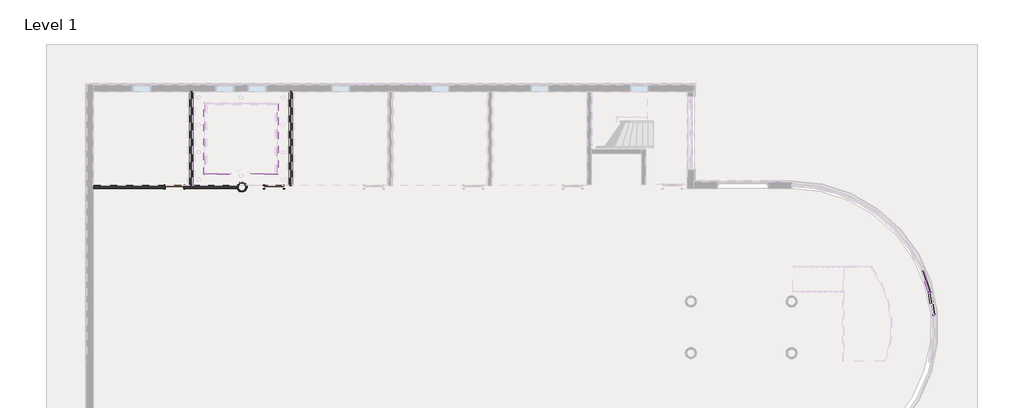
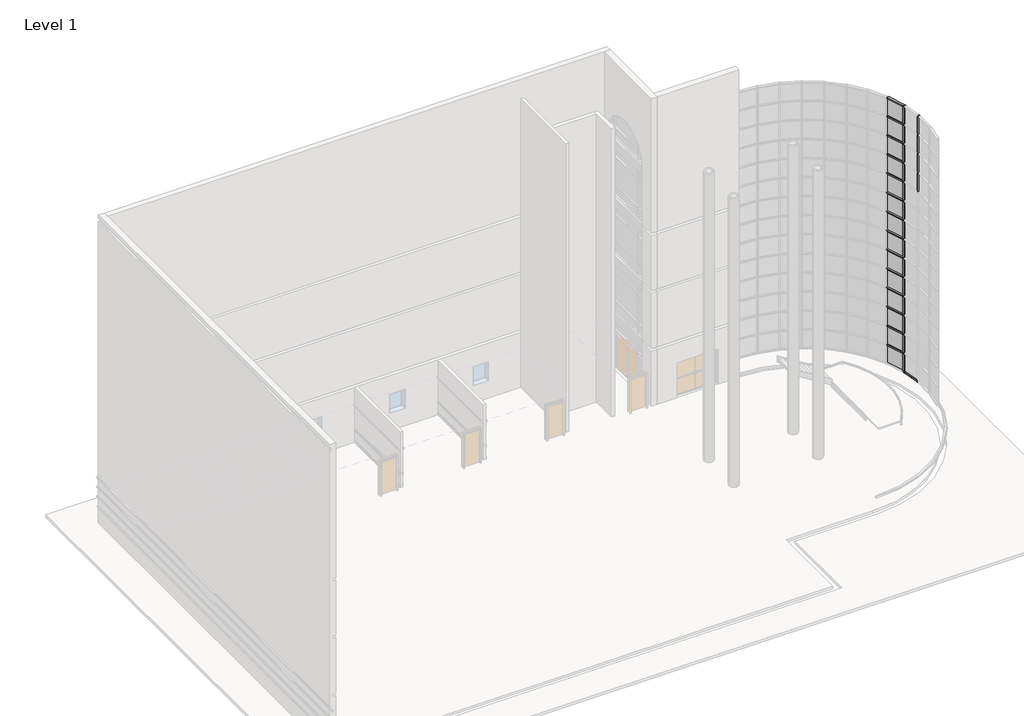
# One storey, part 9 of 20: 33 members, 14 plates, 9 walls, 2 doors.
"""IFC4 building model written with IfcOpenShell, lengths in millimetres."""

from ifc_helpers import new_model, si_unit, frame, origin, place, context, project, spatial, polyline, circle_curve, faceted_brep, transform, mapped, element, save
from ifc_brep_helpers import plane_surface, cylinder_surface, revolved_surface, advanced_brep
from components import door_f9494b7c, member_68fe8548, member_f830fa99, member_935f61b8, system_panel_glazed_da602fa6, system_panel_glazed_77fd207e

model = new_model("IFC4")

# Units and contexts
model_context = context("Model", 3, world=origin())
ifc_project = project(units=[si_unit("LENGTHUNIT", "METRE", prefix="MILLI")], contexts=[model_context])

# Site, building, storey
site = spatial("IfcSite", under=ifc_project)
building = spatial("IfcBuilding", under=site)
storey = spatial("IfcBuildingStorey", under=building, Name="Level 1", Elevation=0.0)

# Doors
placement = place(None, origin())
door_shape = door_f9494b7c(model_context)
element("IfcDoor", 1, ObjectType="Single-Flush : 36\" x 84\"", at=placement, inside=storey, context=model_context, shape_type="MappedRepresentation", body=[
    mapped(door_shape, transform((-13002.9701946, 4534.7523319, 0.0), x_axis=(1.0, 0.0, 0.0), y_axis=(0.0, 1.0, 0.0), z_axis=(0.0, 0.0, 1.0))),
])
element("IfcDoor", 2, ObjectType="Single-Flush : 36\" x 84\"", at=placement, inside=storey, context=model_context, shape_type="MappedRepresentation", body=[
    mapped(door_shape, transform((-8010.8118612, 4534.7523319, 0.0), x_axis=(1.0, 0.0, 0.0), y_axis=(0.0, 1.0, 0.0), z_axis=(0.0, 0.0, 1.0))),
])

# Members
member_shape = member_68fe8548(model_context)
element("IfcMember", 3, ObjectType="Rectangular Mullion : 2.5\" x 5\" rectangular", at=placement, inside=storey, context=model_context, shape_type="MappedRepresentation", body=[
    mapped(member_shape, transform((24848.1611453, -723.2626476, 17983.2), x_axis=(0.0, 0.0, 1.0), y_axis=(-0.9458172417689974, -0.32469946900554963, 0.0), z_axis=(0.32469946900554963, -0.9458172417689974, 0.0))),
])
element("IfcMember", 4, ObjectType="Rectangular Mullion : 2.5\" x 5\" rectangular", at=placement, inside=storey, context=model_context, shape_type="MappedRepresentation", body=[
    mapped(member_shape, transform((24863.6962317, -784.6093164, 1092.2), x_axis=(0.0, 0.0, -1.0), y_axis=(-0.9863613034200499, -0.1645945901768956, 0.0), z_axis=(-0.1645945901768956, 0.9863613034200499, 0.0))),
])
member_2_shape = member_f830fa99(model_context)
element("IfcMember", 5, ObjectType="Rectangular Mullion : 2.5\" x 5\" rectangular", at=placement, inside=storey, context=model_context, shape_type="MappedRepresentation", body=[
    mapped(member_2_shape, transform((24848.1611453, -723.2626476, 2298.7), x_axis=(0.0, 0.0, 1.0), y_axis=(-0.945817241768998, -0.32469946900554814, 0.0), z_axis=(0.32469946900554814, -0.945817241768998, 0.0))),
])
element("IfcMember", 6, ObjectType="Rectangular Mullion : 2.5\" x 5\" rectangular", at=placement, inside=storey, context=model_context, shape_type="MappedRepresentation", body=[
    mapped(member_2_shape, transform((24848.1611453, -723.2626476, 3505.2), x_axis=(0.0, 0.0, 1.0), y_axis=(-0.9458172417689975, -0.3246994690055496, 0.0), z_axis=(0.3246994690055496, -0.9458172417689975, 0.0))),
])
element("IfcMember", 7, ObjectType="Rectangular Mullion : 2.5\" x 5\" rectangular", at=placement, inside=storey, context=model_context, shape_type="MappedRepresentation", body=[
    mapped(member_2_shape, transform((24848.1611453, -723.2626476, 4711.7), x_axis=(0.0, 0.0, 1.0), y_axis=(-0.9458172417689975, -0.3246994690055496, 0.0), z_axis=(0.3246994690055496, -0.9458172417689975, 0.0))),
])
element("IfcMember", 8, ObjectType="Rectangular Mullion : 2.5\" x 5\" rectangular", at=placement, inside=storey, context=model_context, shape_type="MappedRepresentation", body=[
    mapped(member_2_shape, transform((24848.1611453, -723.2626476, 5918.2), x_axis=(0.0, 0.0, 1.0), y_axis=(-0.9458172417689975, -0.3246994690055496, 0.0), z_axis=(0.3246994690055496, -0.9458172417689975, 0.0))),
])
element("IfcMember", 9, ObjectType="Rectangular Mullion : 2.5\" x 5\" rectangular", at=placement, inside=storey, context=model_context, shape_type="MappedRepresentation", body=[
    mapped(member_2_shape, transform((24848.1611453, -723.2626476, 7124.7), x_axis=(0.0, 0.0, 1.0), y_axis=(-0.9458172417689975, -0.32469946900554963, 0.0), z_axis=(0.3246994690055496, -0.9458172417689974, 0.0))),
])
element("IfcMember", 10, ObjectType="Rectangular Mullion : 2.5\" x 5\" rectangular", at=placement, inside=storey, context=model_context, shape_type="MappedRepresentation", body=[
    mapped(member_2_shape, transform((24848.1611453, -723.2626476, 8331.2), x_axis=(0.0, 0.0, 1.0), y_axis=(-0.9458172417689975, -0.32469946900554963, 0.0), z_axis=(0.3246994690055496, -0.9458172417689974, 0.0))),
])
element("IfcMember", 11, ObjectType="Rectangular Mullion : 2.5\" x 5\" rectangular", at=placement, inside=storey, context=model_context, shape_type="MappedRepresentation", body=[
    mapped(member_2_shape, transform((24848.1611453, -723.2626476, 9537.7), x_axis=(0.0, 0.0, 1.0), y_axis=(-0.9458172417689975, -0.32469946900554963, 0.0), z_axis=(0.3246994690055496, -0.9458172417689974, 0.0))),
])
element("IfcMember", 12, ObjectType="Rectangular Mullion : 2.5\" x 5\" rectangular", at=placement, inside=storey, context=model_context, shape_type="MappedRepresentation", body=[
    mapped(member_2_shape, transform((24848.1611453, -723.2626476, 10744.2), x_axis=(0.0, 0.0, 1.0), y_axis=(-0.9458172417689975, -0.32469946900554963, 0.0), z_axis=(0.3246994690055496, -0.9458172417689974, 0.0))),
])
element("IfcMember", 13, ObjectType="Rectangular Mullion : 2.5\" x 5\" rectangular", at=placement, inside=storey, context=model_context, shape_type="MappedRepresentation", body=[
    mapped(member_2_shape, transform((24848.1611453, -723.2626476, 11950.7), x_axis=(0.0, 0.0, 1.0), y_axis=(-0.9458172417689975, -0.32469946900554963, 0.0), z_axis=(0.3246994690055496, -0.9458172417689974, 0.0))),
])
element("IfcMember", 14, ObjectType="Rectangular Mullion : 2.5\" x 5\" rectangular", at=placement, inside=storey, context=model_context, shape_type="MappedRepresentation", body=[
    mapped(member_2_shape, transform((24848.1611453, -723.2626476, 13157.2), x_axis=(0.0, 0.0, 1.0), y_axis=(-0.9458172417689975, -0.32469946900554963, 0.0), z_axis=(0.3246994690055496, -0.9458172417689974, 0.0))),
])
element("IfcMember", 15, ObjectType="Rectangular Mullion : 2.5\" x 5\" rectangular", at=placement, inside=storey, context=model_context, shape_type="MappedRepresentation", body=[
    mapped(member_2_shape, transform((24848.1611453, -723.2626476, 14363.7), x_axis=(0.0, 0.0, 1.0), y_axis=(-0.9458172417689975, -0.32469946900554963, 0.0), z_axis=(0.3246994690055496, -0.9458172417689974, 0.0))),
])
element("IfcMember", 16, ObjectType="Rectangular Mullion : 2.5\" x 5\" rectangular", at=placement, inside=storey, context=model_context, shape_type="MappedRepresentation", body=[
    mapped(member_2_shape, transform((24848.1611453, -723.2626476, 15570.2), x_axis=(0.0, 0.0, 1.0), y_axis=(-0.9458172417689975, -0.32469946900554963, 0.0), z_axis=(0.3246994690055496, -0.9458172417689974, 0.0))),
])
element("IfcMember", 17, ObjectType="Rectangular Mullion : 2.5\" x 5\" rectangular", at=placement, inside=storey, context=model_context, shape_type="MappedRepresentation", body=[
    mapped(member_2_shape, transform((24848.1611453, -723.2626476, 16776.7), x_axis=(0.0, 0.0, 1.0), y_axis=(-0.9458172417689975, -0.32469946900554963, 0.0), z_axis=(0.3246994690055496, -0.9458172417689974, 0.0))),
])
member_3_shape = member_935f61b8(model_context)
element("IfcMember", 18, ObjectType="Rectangular Mullion : 2.5\" x 5\" rectangular", at=placement, inside=storey, context=model_context, shape_type="MappedRepresentation", body=[
    mapped(member_3_shape, transform((24858.4703534, -753.292345, 1092.2), x_axis=(0.24548548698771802, -0.9694002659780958, 0.0), y_axis=(-0.9694002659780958, -0.24548548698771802, 0.0), z_axis=(0.0, 0.0, -1.0))),
])
element("IfcMember", 19, ObjectType="Rectangular Mullion : 2.5\" x 5\" rectangular", at=placement, inside=storey, context=model_context, shape_type="MappedRepresentation", body=[
    mapped(member_3_shape, transform((24858.4703534, -753.292345, 2298.7), x_axis=(0.24548548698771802, -0.9694002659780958, 0.0), y_axis=(-0.9694002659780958, -0.24548548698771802, 0.0), z_axis=(0.0, 0.0, -1.0))),
])
element("IfcMember", 20, ObjectType="Rectangular Mullion : 2.5\" x 5\" rectangular", at=placement, inside=storey, context=model_context, shape_type="MappedRepresentation", body=[
    mapped(member_3_shape, transform((24858.4703534, -753.292345, 3505.2), x_axis=(0.24548548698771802, -0.9694002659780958, 0.0), y_axis=(-0.9694002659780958, -0.24548548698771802, 0.0), z_axis=(0.0, 0.0, -1.0))),
])
element("IfcMember", 21, ObjectType="Rectangular Mullion : 2.5\" x 5\" rectangular", at=placement, inside=storey, context=model_context, shape_type="MappedRepresentation", body=[
    mapped(member_3_shape, transform((24858.4703534, -753.292345, 4711.7), x_axis=(0.24548548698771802, -0.9694002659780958, 0.0), y_axis=(-0.9694002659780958, -0.24548548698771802, 0.0), z_axis=(0.0, 0.0, -1.0))),
])
element("IfcMember", 22, ObjectType="Rectangular Mullion : 2.5\" x 5\" rectangular", at=placement, inside=storey, context=model_context, shape_type="MappedRepresentation", body=[
    mapped(member_3_shape, transform((24858.4703534, -753.292345, 5918.2), x_axis=(0.24548548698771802, -0.9694002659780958, 0.0), y_axis=(-0.9694002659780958, -0.24548548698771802, 0.0), z_axis=(0.0, 0.0, -1.0))),
])
element("IfcMember", 23, ObjectType="Rectangular Mullion : 2.5\" x 5\" rectangular", at=placement, inside=storey, context=model_context, shape_type="MappedRepresentation", body=[
    mapped(member_3_shape, transform((24858.4703534, -753.292345, 7124.7), x_axis=(0.2454854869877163, -0.9694002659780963, 0.0), y_axis=(-0.9694002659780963, -0.2454854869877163, 0.0), z_axis=(0.0, 0.0, -1.0))),
])
element("IfcMember", 24, ObjectType="Rectangular Mullion : 2.5\" x 5\" rectangular", at=placement, inside=storey, context=model_context, shape_type="MappedRepresentation", body=[
    mapped(member_3_shape, transform((24858.4703534, -753.292345, 8331.2), x_axis=(0.2454854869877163, -0.9694002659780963, 0.0), y_axis=(-0.9694002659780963, -0.2454854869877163, 0.0), z_axis=(0.0, 0.0, -1.0))),
])
element("IfcMember", 25, ObjectType="Rectangular Mullion : 2.5\" x 5\" rectangular", at=placement, inside=storey, context=model_context, shape_type="MappedRepresentation", body=[
    mapped(member_3_shape, transform((24858.4703534, -753.292345, 9537.7), x_axis=(0.2454854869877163, -0.9694002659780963, 0.0), y_axis=(-0.9694002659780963, -0.2454854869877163, 0.0), z_axis=(0.0, 0.0, -1.0))),
])
element("IfcMember", 26, ObjectType="Rectangular Mullion : 2.5\" x 5\" rectangular", at=placement, inside=storey, context=model_context, shape_type="MappedRepresentation", body=[
    mapped(member_3_shape, transform((24858.4703534, -753.292345, 10744.2), x_axis=(0.2454854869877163, -0.9694002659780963, 0.0), y_axis=(-0.9694002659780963, -0.2454854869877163, 0.0), z_axis=(0.0, 0.0, -1.0))),
])
element("IfcMember", 27, ObjectType="Rectangular Mullion : 2.5\" x 5\" rectangular", at=placement, inside=storey, context=model_context, shape_type="MappedRepresentation", body=[
    mapped(member_3_shape, transform((24858.4703534, -753.292345, 11950.7), x_axis=(0.2454854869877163, -0.9694002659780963, 0.0), y_axis=(-0.9694002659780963, -0.2454854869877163, 0.0), z_axis=(0.0, 0.0, -1.0))),
])
element("IfcMember", 28, ObjectType="Rectangular Mullion : 2.5\" x 5\" rectangular", at=placement, inside=storey, context=model_context, shape_type="MappedRepresentation", body=[
    mapped(member_3_shape, transform((24858.4703534, -753.292345, 13157.2), x_axis=(0.2454854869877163, -0.9694002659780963, 0.0), y_axis=(-0.9694002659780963, -0.2454854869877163, 0.0), z_axis=(0.0, 0.0, -1.0))),
])
element("IfcMember", 29, ObjectType="Rectangular Mullion : 2.5\" x 5\" rectangular", at=placement, inside=storey, context=model_context, shape_type="MappedRepresentation", body=[
    mapped(member_3_shape, transform((25052.5382104, -1916.2772534, 13157.2), x_axis=(0.0825793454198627, -0.9965844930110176, 0.0), y_axis=(-0.9965844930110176, -0.0825793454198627, 0.0), z_axis=(0.0, 0.0, -1.0))),
])
element("IfcMember", 30, ObjectType="Rectangular Mullion : 2.5\" x 5\" rectangular", at=placement, inside=storey, context=model_context, shape_type="MappedRepresentation", body=[
    mapped(member_3_shape, transform((24858.4703534, -753.292345, 14363.7), x_axis=(0.2454854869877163, -0.9694002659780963, 0.0), y_axis=(-0.9694002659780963, -0.2454854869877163, 0.0), z_axis=(0.0, 0.0, -1.0))),
])
element("IfcMember", 31, ObjectType="Rectangular Mullion : 2.5\" x 5\" rectangular", at=placement, inside=storey, context=model_context, shape_type="MappedRepresentation", body=[
    mapped(member_3_shape, transform((25052.5382104, -1916.2772534, 14363.7), x_axis=(0.0825793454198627, -0.9965844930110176, 0.0), y_axis=(-0.9965844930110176, -0.0825793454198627, 0.0), z_axis=(0.0, 0.0, -1.0))),
])
element("IfcMember", 32, ObjectType="Rectangular Mullion : 2.5\" x 5\" rectangular", at=placement, inside=storey, context=model_context, shape_type="MappedRepresentation", body=[
    mapped(member_3_shape, transform((24858.4703534, -753.292345, 15570.2), x_axis=(0.2454854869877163, -0.9694002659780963, 0.0), y_axis=(-0.9694002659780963, -0.2454854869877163, 0.0), z_axis=(0.0, 0.0, -1.0))),
])
element("IfcMember", 33, ObjectType="Rectangular Mullion : 2.5\" x 5\" rectangular", at=placement, inside=storey, context=model_context, shape_type="MappedRepresentation", body=[
    mapped(member_3_shape, transform((25052.5382104, -1916.2772534, 15570.2), x_axis=(0.0825793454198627, -0.9965844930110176, 0.0), y_axis=(-0.9965844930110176, -0.0825793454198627, 0.0), z_axis=(0.0, 0.0, -1.0))),
])
element("IfcMember", 34, ObjectType="Rectangular Mullion : 2.5\" x 5\" rectangular", at=placement, inside=storey, context=model_context, shape_type="MappedRepresentation", body=[
    mapped(member_3_shape, transform((24858.4703534, -753.292345, 16776.7), x_axis=(0.2454854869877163, -0.9694002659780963, 0.0), y_axis=(-0.9694002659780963, -0.2454854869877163, 0.0), z_axis=(0.0, 0.0, -1.0))),
])
element("IfcMember", 35, ObjectType="Rectangular Mullion : 2.5\" x 5\" rectangular", at=placement, inside=storey, context=model_context, shape_type="MappedRepresentation", body=[
    mapped(member_3_shape, transform((25052.5382104, -1916.2772534, 16776.7), x_axis=(0.0825793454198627, -0.9965844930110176, 0.0), y_axis=(-0.9965844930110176, -0.0825793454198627, 0.0), z_axis=(0.0, 0.0, -1.0))),
])

# Plates
system_panel_glazed_shape = system_panel_glazed_da602fa6(model_context)
element("IfcPlate", 36, ObjectType="System Panel : Glazed", at=placement, inside=storey, context=model_context, shape_type="MappedRepresentation", body=[
    mapped(system_panel_glazed_shape, transform((24667.049329, -195.7019497, 1155.7), x_axis=(0.32469946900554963, -0.9458172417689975, 0.0), y_axis=(0.9458172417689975, 0.32469946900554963, 0.0), z_axis=(0.0, 0.0, 1.0))),
])
element("IfcPlate", 37, ObjectType="System Panel : Glazed", at=placement, inside=storey, context=model_context, shape_type="MappedRepresentation", body=[
    mapped(system_panel_glazed_shape, transform((24667.049329, -195.7019497, 16808.45), x_axis=(0.32469946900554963, -0.9458172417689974, 0.0), y_axis=(0.9458172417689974, 0.32469946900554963, 0.0), z_axis=(0.0, 0.0, 1.0))),
])
system_panel_glazed_2_shape = system_panel_glazed_77fd207e(model_context)
element("IfcPlate", 38, ObjectType="System Panel : Glazed", at=placement, inside=storey, context=model_context, shape_type="MappedRepresentation", body=[
    mapped(system_panel_glazed_2_shape, transform((24667.049329, -195.7019497, 2330.45), x_axis=(0.32469946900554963, -0.9458172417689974, 0.0), y_axis=(0.9458172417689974, 0.32469946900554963, 0.0), z_axis=(0.0, 0.0, 1.0))),
])
element("IfcPlate", 39, ObjectType="System Panel : Glazed", at=placement, inside=storey, context=model_context, shape_type="MappedRepresentation", body=[
    mapped(system_panel_glazed_2_shape, transform((24667.049329, -195.7019497, 3536.95), x_axis=(0.32469946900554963, -0.9458172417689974, 0.0), y_axis=(0.9458172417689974, 0.32469946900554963, 0.0), z_axis=(0.0, 0.0, 1.0))),
])
element("IfcPlate", 40, ObjectType="System Panel : Glazed", at=placement, inside=storey, context=model_context, shape_type="MappedRepresentation", body=[
    mapped(system_panel_glazed_2_shape, transform((24667.049329, -195.7019497, 4743.45), x_axis=(0.32469946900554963, -0.9458172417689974, 0.0), y_axis=(0.9458172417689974, 0.32469946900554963, 0.0), z_axis=(0.0, 0.0, 1.0))),
])
element("IfcPlate", 41, ObjectType="System Panel : Glazed", at=placement, inside=storey, context=model_context, shape_type="MappedRepresentation", body=[
    mapped(system_panel_glazed_2_shape, transform((24667.049329, -195.7019497, 5949.95), x_axis=(0.32469946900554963, -0.9458172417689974, 0.0), y_axis=(0.9458172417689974, 0.32469946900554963, 0.0), z_axis=(0.0, 0.0, 1.0))),
])
element("IfcPlate", 42, ObjectType="System Panel : Glazed", at=placement, inside=storey, context=model_context, shape_type="MappedRepresentation", body=[
    mapped(system_panel_glazed_2_shape, transform((24667.049329, -195.7019497, 7156.45), x_axis=(0.32469946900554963, -0.9458172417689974, 0.0), y_axis=(0.9458172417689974, 0.32469946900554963, 0.0), z_axis=(0.0, 0.0, 1.0))),
])
element("IfcPlate", 43, ObjectType="System Panel : Glazed", at=placement, inside=storey, context=model_context, shape_type="MappedRepresentation", body=[
    mapped(system_panel_glazed_2_shape, transform((24667.049329, -195.7019497, 8362.95), x_axis=(0.32469946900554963, -0.9458172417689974, 0.0), y_axis=(0.9458172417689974, 0.32469946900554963, 0.0), z_axis=(0.0, 0.0, 1.0))),
])
element("IfcPlate", 44, ObjectType="System Panel : Glazed", at=placement, inside=storey, context=model_context, shape_type="MappedRepresentation", body=[
    mapped(system_panel_glazed_2_shape, transform((24667.049329, -195.7019497, 9569.45), x_axis=(0.32469946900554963, -0.9458172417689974, 0.0), y_axis=(0.9458172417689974, 0.32469946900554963, 0.0), z_axis=(0.0, 0.0, 1.0))),
])
element("IfcPlate", 45, ObjectType="System Panel : Glazed", at=placement, inside=storey, context=model_context, shape_type="MappedRepresentation", body=[
    mapped(system_panel_glazed_2_shape, transform((24667.049329, -195.7019497, 10775.95), x_axis=(0.32469946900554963, -0.9458172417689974, 0.0), y_axis=(0.9458172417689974, 0.32469946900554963, 0.0), z_axis=(0.0, 0.0, 1.0))),
])
element("IfcPlate", 46, ObjectType="System Panel : Glazed", at=placement, inside=storey, context=model_context, shape_type="MappedRepresentation", body=[
    mapped(system_panel_glazed_2_shape, transform((24667.049329, -195.7019497, 11982.45), x_axis=(0.32469946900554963, -0.9458172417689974, 0.0), y_axis=(0.9458172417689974, 0.32469946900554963, 0.0), z_axis=(0.0, 0.0, 1.0))),
])
element("IfcPlate", 47, ObjectType="System Panel : Glazed", at=placement, inside=storey, context=model_context, shape_type="MappedRepresentation", body=[
    mapped(system_panel_glazed_2_shape, transform((24667.049329, -195.7019497, 13188.95), x_axis=(0.32469946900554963, -0.9458172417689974, 0.0), y_axis=(0.9458172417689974, 0.32469946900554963, 0.0), z_axis=(0.0, 0.0, 1.0))),
])
element("IfcPlate", 48, ObjectType="System Panel : Glazed", at=placement, inside=storey, context=model_context, shape_type="MappedRepresentation", body=[
    mapped(system_panel_glazed_2_shape, transform((24667.049329, -195.7019497, 14395.45), x_axis=(0.32469946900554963, -0.9458172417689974, 0.0), y_axis=(0.9458172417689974, 0.32469946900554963, 0.0), z_axis=(0.0, 0.0, 1.0))),
])
element("IfcPlate", 49, ObjectType="System Panel : Glazed", at=placement, inside=storey, context=model_context, shape_type="MappedRepresentation", body=[
    mapped(system_panel_glazed_2_shape, transform((24667.049329, -195.7019497, 15601.95), x_axis=(0.32469946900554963, -0.9458172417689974, 0.0), y_axis=(0.9458172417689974, 0.32469946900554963, 0.0), z_axis=(0.0, 0.0, 1.0))),
])

# Walls
element("IfcWall", 50, ObjectType="Interior - 6 1/8\" Partition (2-hr)", at=placement, inside=storey, context=model_context, shape_type="Brep", body=[
    faceted_brep([(-12085.3951946, 4612.5398319, 0.0), (-12085.3951946, 9333.7648319, 0.0), (-12085.3951946, 9333.7648319, 25.4), (-12085.3951946, 9333.7648319, 139.7), (-12085.3951946, 9333.7648319, 184.15), (-12085.3951946, 9333.7648319, 762.0), (-12085.3951946, 9333.7648319, 779.4625), (-12085.3951946, 9333.7648319, 884.2375), (-12085.3951946, 9333.7648319, 901.7), (-12085.3951946, 9333.7648319, 2327.275), (-12085.3951946, 9333.7648319, 2351.8919306), (-12085.3951946, 9333.7648319, 3505.2), (-12085.3951946, 4612.5398319, 3505.2), (-12085.3951946, 4612.5398319, 2351.8919306), (-12085.3951946, 4612.5398319, 2327.275), (-12085.3951946, 4612.5398319, 901.7), (-12085.3951946, 4612.5398319, 884.2375), (-12085.3951946, 4612.5398319, 779.4625), (-12085.3951946, 4612.5398319, 762.0), (-12085.3951946, 4612.5398319, 184.15), (-12085.3951946, 4612.5398319, 139.7), (-12085.3951946, 4612.5398319, 25.4), (-12240.9701946, 4612.5398319, 0.0), (-12240.9701946, 4612.5398319, 25.4), (-12240.9701946, 4612.5398319, 139.7), (-12240.9701946, 4612.5398319, 184.15), (-12240.9701946, 4612.5398319, 762.0), (-12240.9701946, 4612.5398319, 779.4625), (-12240.9701946, 4612.5398319, 884.2375), (-12240.9701946, 4612.5398319, 901.7), (-12240.9701946, 4612.5398319, 2327.275), (-12240.9701946, 4612.5398319, 2351.8919306), (-12240.9701946, 4612.5398319, 3505.2), (-12240.9701946, 9333.7648319, 3505.2), (-12240.9701946, 9333.7648319, 2351.8919306), (-12240.9701946, 9333.7648319, 2327.275), (-12240.9701946, 9333.7648319, 901.7), (-12240.9701946, 9333.7648319, 884.2375), (-12240.9701946, 9333.7648319, 779.4625), (-12240.9701946, 9333.7648319, 762.0), (-12240.9701946, 9333.7648319, 184.15), (-12240.9701946, 9333.7648319, 139.7), (-12240.9701946, 9333.7648319, 25.4), (-12240.9701946, 9333.7648319, 0.0)], [[[0, 1, 2, 3, 4, 5, 6, 7, 8, 9, 10, 11, 12, 13, 14, 15, 16, 17, 18, 19, 20, 21]], [[22, 23, 24, 25, 26, 27, 28, 29, 30, 31, 32, 33, 34, 35, 36, 37, 38, 39, 40, 41, 42, 43]], [[1, 0, 22, 43]], [[0, 21, 20, 19, 18, 17, 16, 15, 14, 13, 12, 32, 31, 30, 29, 28, 27, 26, 25, 24, 23, 22]], [[11, 10, 9, 8, 7, 6, 5, 4, 3, 2, 1, 43, 42, 41, 40, 39, 38, 37, 36, 35, 34, 33]], [[12, 11, 33, 32]]]),
])
element("IfcWall", 51, ObjectType="Interior - 6 1/8\" Partition (2-hr)", at=placement, inside=storey, context=model_context, shape_type="Brep", body=[
    faceted_brep([(-7093.2368612, 4612.5398319, 0.0), (-7093.2368612, 9333.7648319, 0.0), (-7093.2368612, 9333.7648319, 25.4), (-7093.2368612, 9333.7648319, 139.7), (-7093.2368612, 9333.7648319, 184.15), (-7093.2368612, 9333.7648319, 762.0), (-7093.2368612, 9333.7648319, 779.4625), (-7093.2368612, 9333.7648319, 884.2375), (-7093.2368612, 9333.7648319, 901.7), (-7093.2368612, 9333.7648319, 2327.275), (-7093.2368612, 9333.7648319, 2351.8919306), (-7093.2368612, 9333.7648319, 3505.2), (-7093.2368612, 4612.5398319, 3505.2), (-7093.2368612, 4612.5398319, 2351.8919306), (-7093.2368612, 4612.5398319, 2327.275), (-7093.2368612, 4612.5398319, 901.7), (-7093.2368612, 4612.5398319, 884.2375), (-7093.2368612, 4612.5398319, 779.4625), (-7093.2368612, 4612.5398319, 762.0), (-7093.2368612, 4612.5398319, 184.15), (-7093.2368612, 4612.5398319, 139.7), (-7093.2368612, 4612.5398319, 25.4), (-7248.8118612, 4612.5398319, 0.0), (-7248.8118612, 4612.5398319, 25.4), (-7248.8118612, 4612.5398319, 139.7), (-7248.8118612, 4612.5398319, 184.15), (-7248.8118612, 4612.5398319, 762.0), (-7248.8118612, 4612.5398319, 779.4625), (-7248.8118612, 4612.5398319, 884.2375), (-7248.8118612, 4612.5398319, 901.7), (-7248.8118612, 4612.5398319, 2327.275), (-7248.8118612, 4612.5398319, 2351.8919306), (-7248.8118612, 4612.5398319, 3505.2), (-7248.8118612, 9333.7648319, 3505.2), (-7248.8118612, 9333.7648319, 2351.8919306), (-7248.8118612, 9333.7648319, 2327.275), (-7248.8118612, 9333.7648319, 901.7), (-7248.8118612, 9333.7648319, 884.2375), (-7248.8118612, 9333.7648319, 779.4625), (-7248.8118612, 9333.7648319, 762.0), (-7248.8118612, 9333.7648319, 184.15), (-7248.8118612, 9333.7648319, 139.7), (-7248.8118612, 9333.7648319, 25.4), (-7248.8118612, 9333.7648319, 0.0)], [[[0, 1, 2, 3, 4, 5, 6, 7, 8, 9, 10, 11, 12, 13, 14, 15, 16, 17, 18, 19, 20, 21]], [[22, 23, 24, 25, 26, 27, 28, 29, 30, 31, 32, 33, 34, 35, 36, 37, 38, 39, 40, 41, 42, 43]], [[1, 0, 22, 43]], [[0, 21, 20, 19, 18, 17, 16, 15, 14, 13, 12, 32, 31, 30, 29, 28, 27, 26, 25, 24, 23, 22]], [[11, 10, 9, 8, 7, 6, 5, 4, 3, 2, 1, 43, 42, 41, 40, 39, 38, 37, 36, 35, 34, 33]], [[12, 11, 33, 32]]]),
])
element("IfcWall", 52, ObjectType="Interior - 6 1/8\" Partition (2-hr)", at=placement, inside=storey, context=model_context, shape_type="AdvancedBrep", body=[
    advanced_brep(
    [(-17066.4410279, 4612.5398319, 3505.2), (-12240.9701946, 4612.5398319, 3505.2), (-12085.3951946, 4612.5398319, 3505.2), (-9874.4362328, 4612.5398319, 3505.2), (-9874.4362328, 4612.5398319, 2351.8919306), (-9874.4362328, 4612.5398319, 2327.275), (-9874.4362328, 4612.5398319, 901.7), (-9874.4362328, 4612.5398319, 884.2375), (-9874.4362328, 4612.5398319, 779.4625), (-9874.4362328, 4612.5398319, 762.0), (-9874.4362328, 4612.5398319, 184.15), (-9874.4362328, 4612.5398319, 139.7), (-9874.4362328, 4612.5398319, 25.4), (-9874.4362328, 4612.5398319, 0.0), (-12085.3951946, 4612.5398319, 0.0), (-12240.9701946, 4612.5398319, 0.0), (-12545.7701946, 4612.5398319, 0.0), (-12545.7701946, 4612.5398319, 25.4), (-12545.7701946, 4612.5398319, 139.7), (-12545.7701946, 4612.5398319, 184.15), (-12545.7701946, 4612.5398319, 762.0), (-12545.7701946, 4612.5398319, 779.4625), (-12545.7701946, 4612.5398319, 884.2375), (-12545.7701946, 4612.5398319, 901.7), (-12545.7701946, 4612.5398319, 2133.6), (-13460.1701946, 4612.5398319, 2133.6), (-13460.1701946, 4612.5398319, 901.7), (-13460.1701946, 4612.5398319, 884.2375), (-13460.1701946, 4612.5398319, 779.4625), (-13460.1701946, 4612.5398319, 762.0), (-13460.1701946, 4612.5398319, 184.15), (-13460.1701946, 4612.5398319, 139.7), (-13460.1701946, 4612.5398319, 25.4), (-13460.1701946, 4612.5398319, 0.0), (-17066.4410279, 4612.5398319, 0.0), (-17066.4410279, 4612.5398319, 25.4), (-17066.4410279, 4612.5398319, 139.7), (-17066.4410279, 4612.5398319, 184.15), (-17066.4410279, 4612.5398319, 762.0), (-17066.4410279, 4612.5398319, 779.4625), (-17066.4410279, 4612.5398319, 884.2375), (-17066.4410279, 4612.5398319, 901.7), (-17066.4410279, 4612.5398319, 2327.275), (-17066.4410279, 4612.5398319, 2351.8919306), (-13408.8410279, 4456.9648319, 3505.2), (-17066.4410279, 4456.9648319, 3505.2), (-17066.4410279, 4456.9648319, 2351.8919306), (-17066.4410279, 4456.9648319, 2327.275), (-17066.4410279, 4456.9648319, 901.7), (-17066.4410279, 4456.9648319, 884.2375), (-17066.4410279, 4456.9648319, 779.4625), (-17066.4410279, 4456.9648319, 762.0), (-17066.4410279, 4456.9648319, 184.15), (-17066.4410279, 4456.9648319, 139.7), (-17066.4410279, 4456.9648319, 25.4), (-17066.4410279, 4456.9648319, 0.0), (-13460.1701946, 4456.9648319, 0.0), (-13460.1701946, 4456.9648319, 25.4), (-13460.1701946, 4456.9648319, 139.7), (-13460.1701946, 4456.9648319, 184.15), (-13460.1701946, 4456.9648319, 762.0), (-13460.1701946, 4456.9648319, 779.4625), (-13460.1701946, 4456.9648319, 884.2375), (-13460.1701946, 4456.9648319, 901.7), (-13460.1701946, 4456.9648319, 2133.6), (-12545.7701946, 4456.9648319, 2133.6), (-12545.7701946, 4456.9648319, 901.7), (-12545.7701946, 4456.9648319, 884.2375), (-12545.7701946, 4456.9648319, 779.4625), (-12545.7701946, 4456.9648319, 762.0), (-12545.7701946, 4456.9648319, 184.15), (-12545.7701946, 4456.9648319, 139.7), (-12545.7701946, 4456.9648319, 25.4), (-12545.7701946, 4456.9648319, 0.0), (-9874.4362328, 4456.9648319, 0.0), (-9874.4362328, 4456.9648319, 25.4), (-9874.4362328, 4456.9648319, 139.7), (-9874.4362328, 4456.9648319, 184.15), (-9874.4362328, 4456.9648319, 762.0), (-9874.4362328, 4456.9648319, 779.4625), (-9874.4362328, 4456.9648319, 884.2375), (-9874.4362328, 4456.9648319, 901.7), (-9874.4362328, 4456.9648319, 2327.275), (-9874.4362328, 4456.9648319, 2351.8919306), (-9874.4362328, 4456.9648319, 3505.2), (-17066.4410279, 4510.9398319, 3505.2), (-13408.8410279, 4510.9398319, 3505.2), (-9885.1004568, 4510.9398319, 3505.2)],
    [
        (0, 1),
        (1, 2),
        (2, 3),
        (3, 4),
        (4, 5),
        (5, 6),
        (6, 7),
        (7, 8),
        (8, 9),
        (9, 10),
        (10, 11),
        (11, 12),
        (12, 13),
        (13, 14),
        (14, 15),
        (15, 16),
        (16, 17),
        (17, 18),
        (18, 19),
        (19, 20),
        (20, 21),
        (21, 22),
        (22, 23),
        (23, 24),
        (24, 25),
        (25, 26),
        (26, 27),
        (27, 28),
        (28, 29),
        (29, 30),
        (30, 31),
        (31, 32),
        (32, 33),
        (33, 34),
        (34, 35),
        (35, 36),
        (36, 37),
        (37, 38),
        (38, 39),
        (39, 40),
        (40, 41),
        (41, 42),
        (42, 43),
        (43, 0),
        (44, 45),
        (45, 46),
        (46, 47),
        (47, 48),
        (48, 49),
        (49, 50),
        (50, 51),
        (51, 52),
        (52, 53),
        (53, 54),
        (54, 55),
        (55, 56),
        (56, 57),
        (57, 58),
        (58, 59),
        (59, 60),
        (60, 61),
        (61, 62),
        (62, 63),
        (63, 64),
        (64, 65),
        (65, 66),
        (66, 67),
        (67, 68),
        (68, 69),
        (69, 70),
        (70, 71),
        (71, 72),
        (72, 73),
        (73, 74),
        (74, 75),
        (75, 76),
        (76, 77),
        (77, 78),
        (78, 79),
        (79, 80),
        (80, 81),
        (81, 82),
        (82, 83),
        (83, 84),
        (84, 44),
        (55, 34),
        (33, 56),
        (73, 16),
        (13, 74, circle_curve(frame((-9622.6535279, 4534.7523319, 0.0), z_axis=(0.0, 0.0, 1.0), x_axis=(1.0, 0.0, 0.0)), 263.525)),
        (45, 85),
        (85, 0),
        (44, 86),
        (86, 85),
        (84, 87, circle_curve(frame((-9622.6535279, 4534.7523319, 3505.2), z_axis=(0.0, 0.0, -1.0), x_axis=(1.0, 0.0, 0.0)), 263.525)),
        (87, 3, circle_curve(frame((-9622.6535279, 4534.7523319, 3505.2), z_axis=(0.0, 0.0, -1.0), x_axis=(1.0, 0.0, 0.0)), 263.525)),
        (25, 64),
        (24, 65),
    ],
    [
        plane_surface(frame((12457.8725074, 4612.5398319, 0.0), z_axis=(0.0, 1.0, 0.0), x_axis=(-1.0, 0.0, 0.0))),
        plane_surface(frame((12457.8725074, 4456.9648319, 0.0), z_axis=(0.0, -1.0, 0.0), x_axis=(1.0, 0.0, 0.0))),
        plane_surface(frame((-9856.0160279, 4612.5398319, 0.0), z_axis=(0.0, 0.0, -1.0), x_axis=(0.0, -1.0, 0.0))),
        plane_surface(frame((-17066.4410279, -14697.8101681, 0.0), z_axis=(-1.0, 0.0, 0.0), x_axis=(0.0, 1.0, 0.0))),
        plane_surface(frame((18023.4049721, 2628.1648319, 3505.2), z_axis=(0.0, 0.0, 1.0), x_axis=(0.0, -1.0, 0.0))),
        plane_surface(frame((-13408.8410279, -9522.5601681, 3505.2), z_axis=(0.0, 0.0, 1.0), x_axis=(1.0, 0.0, 0.0))),
        plane_surface(frame((-13460.1701946, 4612.5398319, 2133.6), z_axis=(1.0, 0.0, 0.0), x_axis=(0.0, -1.0, 0.0))),
        plane_surface(frame((-12545.7701946, 4612.5398319, 2133.6), z_axis=(0.0, 0.0, -1.0), x_axis=(0.0, -1.0, 0.0))),
        plane_surface(frame((-12545.7701946, 4612.5398319, 0.0), z_axis=(-1.0, 0.0, 0.0), x_axis=(0.0, -1.0, 0.0))),
        revolved_surface(polyline([(-9359.1285279, 4534.7523319, 3505.2), (-9359.1285279, 4534.7523319, 0.0)]), (-9622.6535279, 4534.7523319, 0.0), (0.0, 0.0, 1.0)),
    ],
    [
        (0, [[1, 2, 3, 4, 5, 6, 7, 8, 9, 10, 11, 12, 13, 14, 15, 16, 17, 18, 19, 20, 21, 22, 23, 24, 25, 26, 27, 28, 29, 30, 31, 32, 33, 34, 35, 36, 37, 38, 39, 40, 41, 42, 43, 44]]),
        (1, [[45, 46, 47, 48, 49, 50, 51, 52, 53, 54, 55, 56, 57, 58, 59, 60, 61, 62, 63, 64, 65, 66, 67, 68, 69, 70, 71, 72, 73, 74, 75, 76, 77, 78, 79, 80, 81, 82, 83, 84, 85]]),
        (2, [[86, -34, 87, -56]]),
        (2, [[88, -16, -15, -14, 89, -74]]),
        (3, [[-86, -55, -54, -53, -52, -51, -50, -49, -48, -47, -46, 90, 91, -44, -43, -42, -41, -40, -39, -38, -37, -36, -35]]),
        (4, [[-90, -45, 92, 93]]),
        (5, [[-3, -2, -1, -91, -93, -92, -85, 94, 95]]),
        (6, [[-87, -33, -32, -31, -30, -29, -28, -27, -26, 96, -64, -63, -62, -61, -60, -59, -58, -57]]),
        (7, [[-25, 97, -65, -96]]),
        (8, [[-97, -24, -23, -22, -21, -20, -19, -18, -17, -88, -73, -72, -71, -70, -69, -68, -67, -66]]),
        (9, [[-89, -13, -12, -11, -10, -9, -8, -7, -6, -5, -4, -95, -94, -84, -83, -82, -81, -80, -79, -78, -77, -76, -75]]),
    ],
),
])
element("IfcWall", 53, ObjectType="Interior - Column Wrap", at=placement, inside=storey, context=model_context, shape_type="AdvancedBrep", body=[
    advanced_brep(
    [(-9810.3749834, 4456.9648319, 3657.6), (-9419.4535279, 4534.7523319, 3657.6), (-9359.1285279, 4534.7523319, 3657.6), (-9874.4362328, 4456.9648319, 3657.6), (-9419.4535279, 4534.7523319, 0.0), (-9810.3749834, 4456.9648319, 0.0), (-9874.4362328, 4456.9648319, 0.0), (-9874.4362328, 4612.5398319, 0.0), (-9370.870823, 4612.5398319, 0.0), (-9359.1285279, 4534.7523319, 0.0), (-9874.4362328, 4456.9648319, 3505.2)],
    [
        (0, 1, circle_curve(frame((-9622.6535279, 4534.7523319, 3657.6), z_axis=(0.0, 0.0, -1.0), x_axis=(1.0, 0.0, 0.0)), 203.2)),
        (1, 2),
        (2, 3, circle_curve(frame((-9622.6535279, 4534.7523319, 3657.6), z_axis=(0.0, 0.0, 1.0), x_axis=(1.0, 0.0, 0.0)), 263.525)),
        (3, 0),
        (4, 5, circle_curve(frame((-9622.6535279, 4534.7523319, 0.0), z_axis=(0.0, 0.0, 1.0), x_axis=(1.0, 0.0, 0.0)), 203.2)),
        (5, 6),
        (6, 7, circle_curve(frame((-9622.6535279, 4534.7523319, 0.0), z_axis=(0.0, 0.0, -1.0), x_axis=(1.0, 0.0, 0.0)), 263.525)),
        (7, 8, circle_curve(frame((-9622.6535279, 4534.7523319, 0.0), z_axis=(0.0, 0.0, -1.0), x_axis=(1.0, 0.0, 0.0)), 263.525)),
        (8, 9, circle_curve(frame((-9622.6535279, 4534.7523319, 0.0), z_axis=(0.0, 0.0, -1.0), x_axis=(1.0, 0.0, 0.0)), 263.525)),
        (9, 4),
        (0, 5),
        (4, 1),
        (9, 2),
        (6, 10),
        (10, 3),
    ],
    [
        plane_surface(frame((-9419.4535279, 4534.7523319, 3657.6), z_axis=(0.0, 0.0, 1.0), x_axis=(0.0, -1.0, 0.0))),
        plane_surface(frame((-9419.4535279, 4534.7523319, 0.0), z_axis=(0.0, 0.0, -1.0), x_axis=(0.0, 1.0, 0.0))),
        revolved_surface(polyline([(-9419.4535279, 4534.7523319, 0.0), (-9419.4535279, 4534.7523319, 3657.6)]), (-9622.6535279, 4534.7523319, 0.0), (0.0, 0.0, -1.0)),
        plane_surface(frame((-9419.4535279, 4534.7523319, 3657.6), z_axis=(0.0, -1.0, 0.0), x_axis=(0.0, 0.0, -1.0))),
        cylinder_surface(frame((-9622.6535279, 4534.7523319, 0.0), z_axis=(0.0, 0.0, 1.0), x_axis=(1.0, 0.0, 0.0)), 263.525),
        plane_surface(frame((12457.8725074, 4456.9648319, 0.0), z_axis=(0.0, -1.0, 0.0), x_axis=(1.0, 0.0, 0.0))),
    ],
    [
        (0, [[1, 2, 3, 4]]),
        (1, [[5, 6, 7, 8, 9, 10]]),
        (2, [[-1, 11, -5, 12]]),
        (3, [[-2, -12, -10, 13]]),
        (4, [[-3, -13, -9, -8, -7, 14, 15]]),
        (5, [[-4, -15, -14, -6, -11]]),
    ],
),
])
element("IfcWall", 54, ObjectType="Interior - Column Wrap", at=placement, inside=storey, context=model_context, shape_type="AdvancedBrep", body=[
    advanced_brep(
    [(-9419.4535279, 4534.7523319, 3657.6), (-9810.3749834, 4456.9648319, 3657.6), (-9874.4362328, 4456.9648319, 3657.6), (-9359.1285279, 4534.7523319, 3657.6), (-9810.3749834, 4456.9648319, 0.0), (-9419.4535279, 4534.7523319, 0.0), (-9359.1285279, 4534.7523319, 0.0), (-9370.870823, 4456.9648319, 0.0), (-9874.4362328, 4456.9648319, 0.0), (-9874.4362328, 4456.9648319, 2351.8919306), (-9874.4362328, 4456.9648319, 2327.275), (-9874.4362328, 4456.9648319, 901.7), (-9874.4362328, 4456.9648319, 884.2375), (-9874.4362328, 4456.9648319, 779.4625), (-9874.4362328, 4456.9648319, 762.0), (-9874.4362328, 4456.9648319, 184.15), (-9874.4362328, 4456.9648319, 139.7), (-9874.4362328, 4456.9648319, 25.4)],
    [
        (0, 1, circle_curve(frame((-9622.6535279, 4534.7523319, 3657.6), z_axis=(0.0, 0.0, -1.0), x_axis=(1.0, 0.0, 0.0)), 203.2)),
        (1, 2),
        (2, 3, circle_curve(frame((-9622.6535279, 4534.7523319, 3657.6), z_axis=(0.0, 0.0, 1.0), x_axis=(1.0, 0.0, 0.0)), 263.525)),
        (3, 0),
        (4, 5, circle_curve(frame((-9622.6535279, 4534.7523319, 0.0), z_axis=(0.0, 0.0, 1.0), x_axis=(1.0, 0.0, 0.0)), 203.2)),
        (5, 6),
        (6, 7, circle_curve(frame((-9622.6535279, 4534.7523319, 0.0), z_axis=(0.0, 0.0, -1.0), x_axis=(1.0, 0.0, 0.0)), 263.525)),
        (7, 8, circle_curve(frame((-9622.6535279, 4534.7523319, 0.0), z_axis=(0.0, 0.0, -1.0), x_axis=(1.0, 0.0, 0.0)), 263.525)),
        (8, 4),
        (0, 5),
        (4, 1),
        (2, 9),
        (9, 10),
        (10, 11),
        (11, 12),
        (12, 13),
        (13, 14),
        (14, 15),
        (15, 16),
        (16, 17),
        (17, 8),
        (6, 3),
    ],
    [
        plane_surface(frame((-9419.4535279, 4534.7523319, 3657.6), z_axis=(0.0, 0.0, 1.0), x_axis=(0.0, -1.0, 0.0))),
        plane_surface(frame((-9419.4535279, 4534.7523319, 0.0), z_axis=(0.0, 0.0, -1.0), x_axis=(0.0, 1.0, 0.0))),
        revolved_surface(polyline([(-9419.4535279, 4534.7523319, 0.0), (-9419.4535279, 4534.7523319, 3657.6)]), (-9622.6535279, 4534.7523319, 0.0), (0.0, 0.0, -1.0)),
        cylinder_surface(frame((-9622.6535279, 4534.7523319, 0.0), z_axis=(0.0, 0.0, 1.0), x_axis=(1.0, 0.0, 0.0)), 263.525),
        plane_surface(frame((-9359.1285279, 4534.7523319, 3657.6), z_axis=(0.0, 1.0, 0.0), x_axis=(0.0, 0.0, -1.0))),
        plane_surface(frame((12457.8725074, 4456.9648319, 0.0), z_axis=(0.0, 1.0, 0.0), x_axis=(1.0, 0.0, 0.0))),
    ],
    [
        (0, [[1, 2, 3, 4]]),
        (1, [[5, 6, 7, 8, 9]]),
        (2, [[-1, 10, -5, 11]]),
        (3, [[-3, 12, 13, 14, 15, 16, 17, 18, 19, 20, 21, -8, -7, 22]]),
        (4, [[-4, -22, -6, -10]]),
        (5, [[-2, -11, -9, -21, -20, -19, -18, -17, -16, -15, -14, -13, -12]]),
    ],
),
])
element("IfcWall", 55, ObjectType="Interior -Soffit", at=placement, inside=storey, context=model_context, shape_type="Brep", body=[
    faceted_brep([(-11475.7951946, 8784.4898319, 3505.2), (-11475.7951946, 8724.1648319, 3505.2), (-11475.7951946, 5161.8148319, 3505.2), (-11475.7951946, 5161.8148319, 2546.35), (-11475.7951946, 5222.1398319, 2546.35), (-11475.7951946, 8724.1648319, 2546.35), (-11475.7951946, 8784.4898319, 2546.35), (-11536.1201946, 5161.8148319, 3505.2), (-11536.1201946, 8784.4898319, 3505.2), (-11536.1201946, 8784.4898319, 2546.35), (-11536.1201946, 5161.8148319, 2546.35)], [[[0, 1, 2, 3, 4, 5, 6]], [[7, 8, 9, 10]], [[8, 0, 6, 9]], [[2, 7, 10, 3]], [[2, 1, 0, 8, 7]], [[6, 5, 4, 3, 10, 9]]]),
])
element("IfcWall", 56, ObjectType="Interior -Soffit", at=placement, inside=storey, context=model_context, shape_type="Brep", body=[
    faceted_brep([(-7858.4118612, 5161.8148319, 3505.2), (-7858.4118612, 8724.1648319, 3505.2), (-7858.4118612, 8724.1648319, 2546.35), (-7858.4118612, 5222.1398319, 2546.35), (-7858.4118612, 5161.8148319, 2546.35), (-7798.0868612, 8724.1648319, 3505.2), (-7798.0868612, 5161.8148319, 3505.2), (-7798.0868612, 5161.8148319, 2546.35), (-7798.0868612, 8724.1648319, 2546.35)], [[[0, 1, 2, 3, 4]], [[5, 6, 7, 8]], [[1, 5, 8, 2]], [[6, 0, 4, 7]], [[1, 0, 6, 5]], [[4, 3, 2, 8, 7]]]),
])
element("IfcWall", 57, ObjectType="Interior -Soffit", at=placement, inside=storey, context=model_context, shape_type="AdvancedBrep", body=[
    advanced_brep(
    [(-9188.8998365, 5222.1398319, 3657.6), (-9084.2803391, 5222.1398319, 3657.6), (-7858.4118612, 5222.1398319, 3657.6), (-7858.4118612, 5222.1398319, 2809.0919306), (-7858.4118612, 5222.1398319, 2784.475), (-7858.4118612, 5222.1398319, 2578.1), (-7858.4118612, 5222.1398319, 2560.6375), (-7858.4118612, 5222.1398319, 2546.35), (-9084.2803391, 5222.1398319, 2546.35), (-9188.8998365, 5222.1398319, 2546.35), (-7858.4118612, 5161.8148319, 3657.6), (-9105.5109353, 5161.8148319, 3657.6), (-9105.5109353, 5161.8148319, 2546.35), (-7858.4118612, 5161.8148319, 2546.35), (-7858.4118612, 5161.8148319, 3505.2)],
    [
        (0, 1),
        (1, 2),
        (2, 3),
        (3, 4),
        (4, 5),
        (5, 6),
        (6, 7),
        (7, 8),
        (8, 9),
        (9, 0),
        (10, 11),
        (11, 12),
        (12, 13),
        (13, 14),
        (14, 10),
        (0, 11, circle_curve(frame((-9622.6535279, 4534.7523319, 3657.6), z_axis=(0.0, 0.0, -1.0), x_axis=(1.0, 0.0, 0.0)), 812.8)),
        (10, 2),
        (13, 7),
        (9, 12, circle_curve(frame((-9622.6535279, 4534.7523319, 2546.35), z_axis=(0.0, 0.0, -1.0), x_axis=(1.0, 0.0, 0.0)), 812.8)),
    ],
    [
        plane_surface(frame((-7858.4118612, 5222.1398319, 2438.4), z_axis=(0.0, 1.0, 0.0), x_axis=(-1.0, 0.0, 0.0))),
        plane_surface(frame((-7858.4118612, 5161.8148319, 2438.4), z_axis=(0.0, -1.0, 0.0), x_axis=(1.0, 0.0, 0.0))),
        plane_surface(frame((-9094.7888902, 5222.1398319, 3657.6), z_axis=(0.0, 0.0, 1.0), x_axis=(0.0, -1.0, 0.0))),
        plane_surface(frame((-7858.4118612, 8724.1648319, 2438.4), z_axis=(1.0, 0.0, 0.0), x_axis=(0.0, -1.0, 0.0))),
        revolved_surface(polyline([(-8809.8535279, 4534.7523319, 2546.35), (-8809.8535279, 4534.7523319, 3657.6)]), (-9622.6535279, 4534.7523319, 2438.4), (0.0, 0.0, -1.0)),
        plane_surface(frame((-12085.3951946, 4534.7523319, 2546.35), z_axis=(0.0, 0.0, -1.0), x_axis=(0.0, -1.0, 0.0))),
    ],
    [
        (0, [[1, 2, 3, 4, 5, 6, 7, 8, 9, 10]]),
        (1, [[11, 12, 13, 14, 15]]),
        (2, [[-2, -1, 16, -11, 17]]),
        (3, [[-17, -15, -14, 18, -7, -6, -5, -4, -3]]),
        (4, [[-16, -10, 19, -12]]),
        (5, [[-9, -8, -18, -13, -19]]),
    ],
),
])
element("IfcWall", 58, ObjectType="Interior -Soffit", at=placement, inside=storey, context=model_context, shape_type="AdvancedBrep", body=[
    advanced_brep(
    [(-11475.7951946, 5222.1398319, 3657.6), (-10161.0267167, 5222.1398319, 3657.6), (-10161.0267167, 5222.1398319, 2809.0919306), (-10161.0267167, 5222.1398319, 2784.475), (-10161.0267167, 5222.1398319, 2578.1), (-10161.0267167, 5222.1398319, 2560.6375), (-10161.0267167, 5222.1398319, 2546.35), (-11475.7951946, 5222.1398319, 2546.35), (-11475.7951946, 5222.1398319, 2560.6375), (-11475.7951946, 5222.1398319, 2578.1), (-11475.7951946, 5222.1398319, 2784.475), (-11475.7951946, 5222.1398319, 2809.0919306), (-10230.2223608, 5161.8148319, 3657.6), (-11475.7951946, 5161.8148319, 3657.6), (-11475.7951946, 5161.8148319, 3505.2), (-11475.7951946, 5161.8148319, 2546.35), (-10230.2223608, 5161.8148319, 2546.35)],
    [
        (0, 1),
        (1, 2),
        (2, 3),
        (3, 4),
        (4, 5),
        (5, 6),
        (6, 7),
        (7, 8),
        (8, 9),
        (9, 10),
        (10, 11),
        (11, 0),
        (12, 13),
        (13, 14),
        (14, 15),
        (15, 16),
        (16, 12),
        (0, 13),
        (12, 1, circle_curve(frame((-9622.6535279, 4534.7523319, 3657.6), z_axis=(0.0, 0.0, -1.0), x_axis=(1.0, 0.0, 0.0)), 873.125)),
        (16, 6, circle_curve(frame((-9622.6535279, 4534.7523319, 2546.35), z_axis=(0.0, 0.0, -1.0), x_axis=(1.0, 0.0, 0.0)), 873.125)),
        (7, 15),
    ],
    [
        plane_surface(frame((-10161.0267167, 5222.1398319, 2438.4), z_axis=(0.0, 1.0, 0.0), x_axis=(-1.0, 0.0, 0.0))),
        plane_surface(frame((-10161.0267167, 5161.8148319, 2438.4), z_axis=(0.0, -1.0, 0.0), x_axis=(1.0, 0.0, 0.0))),
        plane_surface(frame((-11505.9576946, 5222.1398319, 3657.6), z_axis=(0.0, 0.0, 1.0), x_axis=(0.0, -1.0, 0.0))),
        revolved_surface(polyline([(-8749.5285279, 4534.7523319, 3657.6), (-8749.5285279, 4534.7523319, 2546.35)]), (-9622.6535279, 4534.7523319, 2438.4), (0.0, 0.0, 1.0)),
        plane_surface(frame((-11475.7951946, 5222.1398319, 2438.4), z_axis=(-1.0, 0.0, 0.0), x_axis=(0.0, 1.0, 0.0))),
        plane_surface(frame((-12085.3951946, 4534.7523319, 2546.35), z_axis=(0.0, 0.0, -1.0), x_axis=(0.0, -1.0, 0.0))),
    ],
    [
        (0, [[1, 2, 3, 4, 5, 6, 7, 8, 9, 10, 11, 12]]),
        (1, [[13, 14, 15, 16, 17]]),
        (2, [[-1, 18, -13, 19]]),
        (3, [[-19, -17, 20, -6, -5, -4, -3, -2]]),
        (4, [[-18, -12, -11, -10, -9, -8, 21, -15, -14]]),
        (5, [[-7, -20, -16, -21]]),
    ],
),
])

save(model, "model.ifc")
